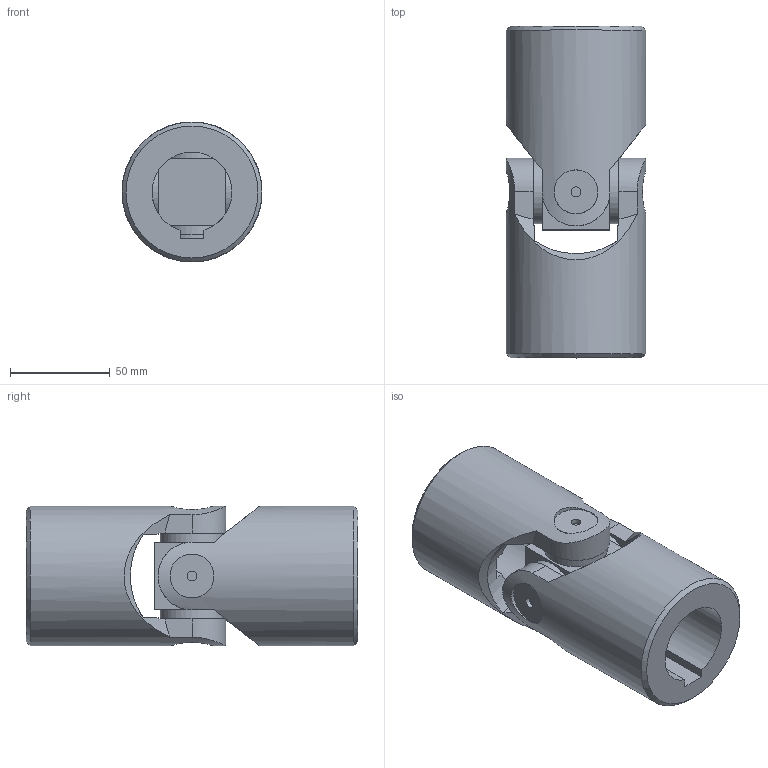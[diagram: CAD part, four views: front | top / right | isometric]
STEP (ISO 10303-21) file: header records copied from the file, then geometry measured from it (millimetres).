
FILE_DESCRIPTION(/* description */ (''),/* implementation_level */ '2;1');
FILE_NAME(/* name */ '\\SRV2016\Societa\Stefano\Disegni 3D\Dis. Clienti\0000Catalogo 3D\01Singoli G-GB\Ø70_8GB-2C_SGBS402C.stp',/* time_stamp */ '2021-11-10T15:15:55+01:00',/* author */ ('acquisti'),/* organization */ (''),/* preprocessor_version */ 'ST-DEVELOPER v15.6',/* originating_system */ 'Autodesk Inventor 2015',/* authorisation */ '');
FILE_SCHEMA (('AUTOMOTIVE_DESIGN { 1 0 10303 214 3 1 1 }'));
Length unit declared in the file: millimetre
Products named in the file (3): 7G SFE; 8GB MOC; Assieme10
Assembly tree (3 placements, depth 2):
  Assieme10
    7G SFE
    8GB MOC  x2
Bounding box: 70 x 166 x 70 mm (x, y, z)
Volume: 403144 mm3; surface area: 72323.4 mm2
Topology: 3 solids, 3 shells, 74 faces, 178 edges, 120 vertices
Faces by surface type: plane 42, cylinder 20, cone 10, torus 2
Full cylindrical faces by diameter (mm): 5 x4, 22 x4, 32 x4, 70 x2
Entity records: 1496 total; most frequent: CARTESIAN_POINT 494, DIRECTION 193, ORIENTED_EDGE 180, EDGE_CURVE 90, AXIS2_PLACEMENT_3D 81, VERTEX_POINT 68, EDGE_LOOP 64, FACE_OUTER_BOUND 44
